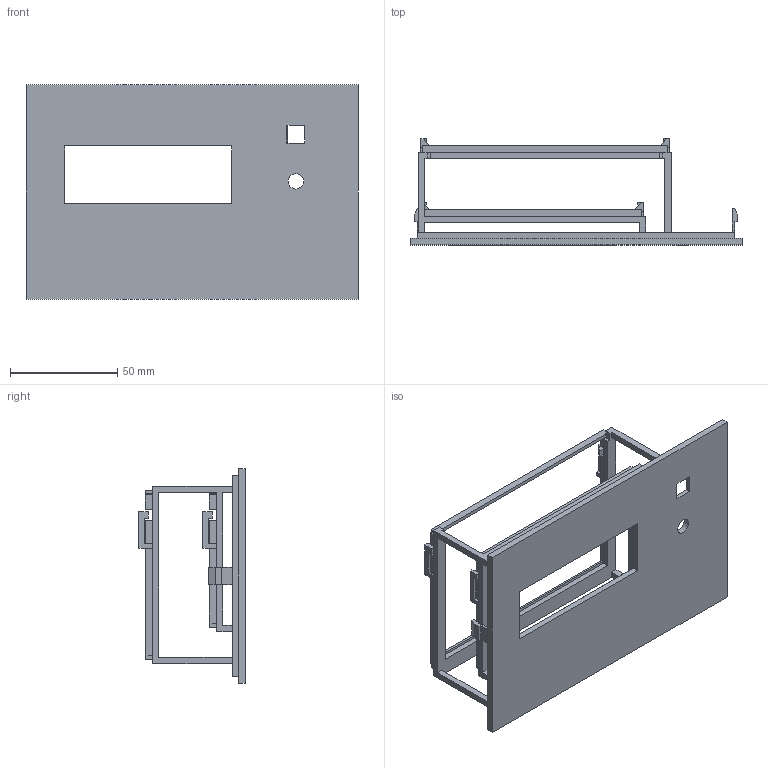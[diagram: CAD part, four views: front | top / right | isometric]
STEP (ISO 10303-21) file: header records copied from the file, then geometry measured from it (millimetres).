
FILE_DESCRIPTION(('Open CASCADE Model'),'2;1');
FILE_NAME('Open CASCADE Shape Model','2026-11-10T19:16:45',('Author'),( 'Open CASCADE'),'Open CASCADE STEP processor 7.8','Open CASCADE 7.8' ,'Unknown');
FILE_SCHEMA(('AUTOMOTIVE_DESIGN { 1 0 10303 214 1 1 1 1 }'));
Length unit declared in the file: millimetre
Products named in the file (1): Open CASCADE STEP translator 7.8 3
Bounding box: 155 x 49.6 x 100 mm (x, y, z)
Volume: 59874.7 mm3; surface area: 52731.2 mm2
Topology: 1 solids, 1 shells, 244 faces, 722 edges, 480 vertices
Faces by surface type: plane 243, cylinder 1
Full cylindrical faces by diameter (mm): 7.2 x1
Entity records: 16947 total; most frequent: CARTESIAN_POINT 3380, DIRECTION 2169, LINE 1673, VECTOR 1673, ORIENTED_EDGE 1444, PCURVE 1444, DEFINITIONAL_REPRESENTATION 1444, EDGE_CURVE 722
